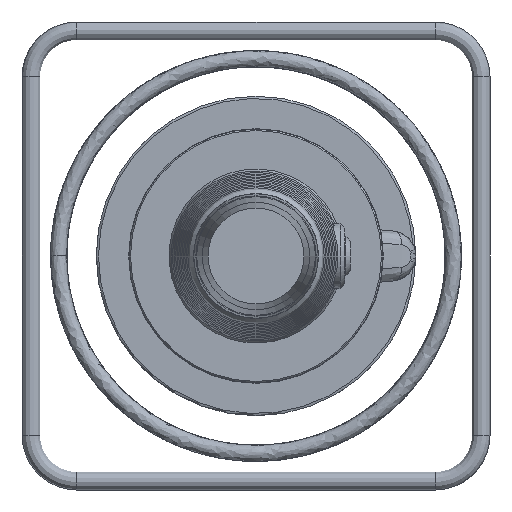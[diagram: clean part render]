
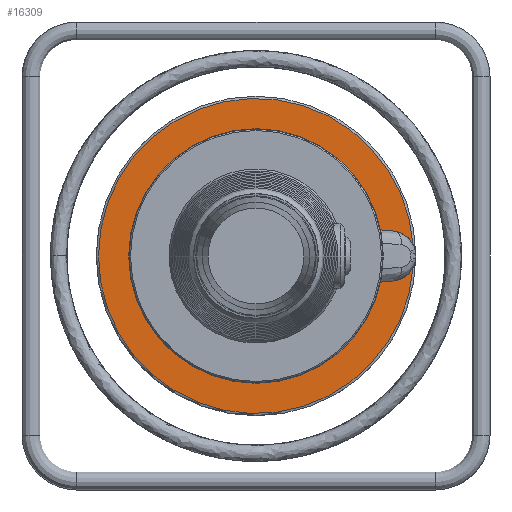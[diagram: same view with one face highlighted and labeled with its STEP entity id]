
A CAD part, left-side view. The second image highlights one B-rep face of the part: STEP entity #16309.
In plain terms, the highlighted planar face has unit normal (-1, 0, 0).
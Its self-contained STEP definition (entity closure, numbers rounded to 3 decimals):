
#1544=PLANE('',#17289);
#2530=LINE('',#33665,#3438);
#2531=LINE('',#33672,#3439);
#3438=VECTOR('',#20073,30.808);
#3439=VECTOR('',#20080,30.808);
#4542=FACE_OUTER_BOUND('',#5610,.T.);
#5610=EDGE_LOOP('',(#14302,#14303,#14304,#14305,#14306,#14307,#14308,#14309));
#6330=CIRCLE('',#17290,22.);
#6331=CIRCLE('',#17291,138.);
#6332=CIRCLE('',#17292,22.);
#6333=CIRCLE('',#17293,10.);
#6334=CIRCLE('',#17294,91.5);
#6335=CIRCLE('',#17295,10.);
#7883=VERTEX_POINT('',#33657);
#7884=VERTEX_POINT('',#33658);
#7885=VERTEX_POINT('',#33660);
#7886=VERTEX_POINT('',#33662);
#7887=VERTEX_POINT('',#33664);
#7888=VERTEX_POINT('',#33666);
#7889=VERTEX_POINT('',#33668);
#7890=VERTEX_POINT('',#33670);
#10096=EDGE_CURVE('',#7883,#7884,#6330,.T.);
#10097=EDGE_CURVE('',#7885,#7884,#6331,.T.);
#10098=EDGE_CURVE('',#7885,#7886,#6332,.T.);
#10099=EDGE_CURVE('',#7886,#7887,#2530,.T.);
#10100=EDGE_CURVE('',#7887,#7888,#6333,.T.);
#10101=EDGE_CURVE('',#7888,#7889,#6334,.T.);
#10102=EDGE_CURVE('',#7889,#7890,#6335,.T.);
#10103=EDGE_CURVE('',#7890,#7883,#2531,.T.);
#14302=ORIENTED_EDGE('',*,*,#10096,.T.);
#14303=ORIENTED_EDGE('',*,*,#10097,.F.);
#14304=ORIENTED_EDGE('',*,*,#10098,.T.);
#14305=ORIENTED_EDGE('',*,*,#10099,.T.);
#14306=ORIENTED_EDGE('',*,*,#10100,.T.);
#14307=ORIENTED_EDGE('',*,*,#10101,.T.);
#14308=ORIENTED_EDGE('',*,*,#10102,.T.);
#14309=ORIENTED_EDGE('',*,*,#10103,.T.);
#16309=ADVANCED_FACE('',(#4542),#1544,.T.);
#17289=AXIS2_PLACEMENT_3D('',#33656,#20065,#20066);
#17290=AXIS2_PLACEMENT_3D('',#33659,#20067,#20068);
#17291=AXIS2_PLACEMENT_3D('',#33661,#20069,#20070);
#17292=AXIS2_PLACEMENT_3D('',#33663,#20071,#20072);
#17293=AXIS2_PLACEMENT_3D('',#33667,#20074,#20075);
#17294=AXIS2_PLACEMENT_3D('',#33669,#20076,#20077);
#17295=AXIS2_PLACEMENT_3D('',#33671,#20078,#20079);
#20065=DIRECTION('center_axis',(-1.,0.,0.));
#20066=DIRECTION('ref_axis',(0.,1.,0.));
#20067=DIRECTION('center_axis',(1.,0.,0.));
#20068=DIRECTION('ref_axis',(0.,0.087,0.996));
#20069=DIRECTION('center_axis',(1.,0.,0.));
#20070=DIRECTION('ref_axis',(0.,0.,
1.));
#20071=DIRECTION('center_axis',(1.,0.,0.));
#20072=DIRECTION('ref_axis',(0.,0.087,0.996));
#20073=DIRECTION('',(0.,0.996,-0.087));
#20074=DIRECTION('center_axis',(-1.,0.,0.));
#20075=DIRECTION('ref_axis',(0.,0.087,0.996));
#20076=DIRECTION('center_axis',(1.,0.,0.));
#20077=DIRECTION('ref_axis',(0.,0.,
1.));
#20078=DIRECTION('center_axis',(-1.,0.,0.));
#20079=DIRECTION('ref_axis',(0.,0.934,-0.358));
#20080=DIRECTION('',(0.,-0.996,-0.087));
#33656=CARTESIAN_POINT('Origin',(-17.009,-0.004,
114.75));
#33657=CARTESIAN_POINT('',(-17.009,-119.922,21.916));
#33658=CARTESIAN_POINT('',(-17.009,-137.649,9.905));
#33659=CARTESIAN_POINT('Origin',(-17.009,-118.004,0.));
#33660=CARTESIAN_POINT('',(-17.009,-137.649,-9.905));
#33661=CARTESIAN_POINT('Origin',(-17.009,-0.004,
0.));
#33662=CARTESIAN_POINT('',(-17.009,-119.922,-21.916));
#33663=CARTESIAN_POINT('Origin',(-17.009,-118.004,0.));
#33664=CARTESIAN_POINT('',(-17.009,-89.231,-24.601));
#33665=CARTESIAN_POINT('',(-17.009,-66.352,-26.603));
#33666=CARTESIAN_POINT('',(-17.009,-88.088,-24.768));
#33667=CARTESIAN_POINT('Origin',(-17.009,-90.102,-34.563));
#33668=CARTESIAN_POINT('',(-17.009,-88.088,24.768));
#33669=CARTESIAN_POINT('Origin',(-17.009,-0.004,
0.));
#33670=CARTESIAN_POINT('',(-17.009,-89.231,24.601));
#33671=CARTESIAN_POINT('Origin',(-17.009,-90.102,34.563));
#33672=CARTESIAN_POINT('',(-17.009,-41.043,28.817));
